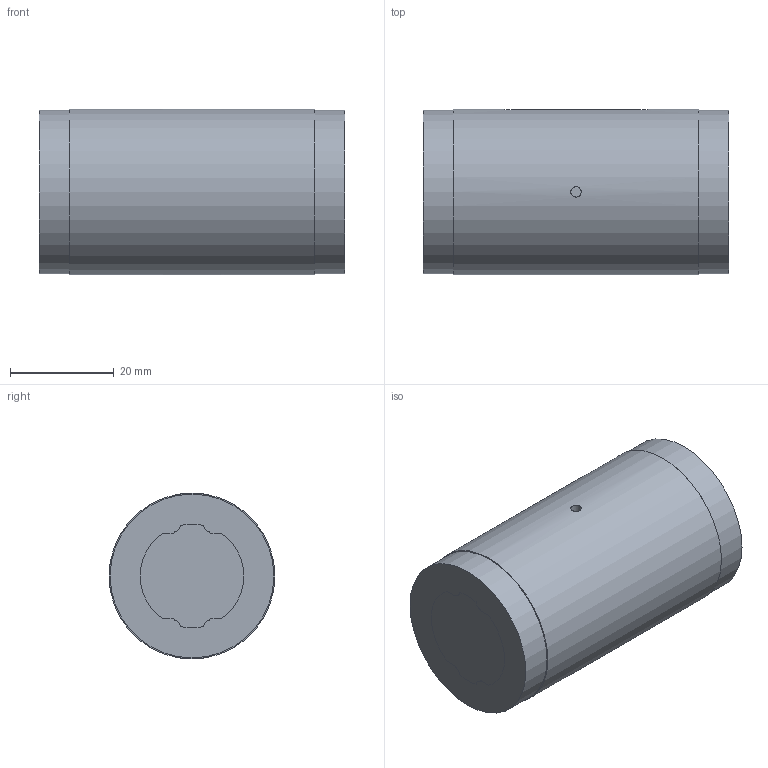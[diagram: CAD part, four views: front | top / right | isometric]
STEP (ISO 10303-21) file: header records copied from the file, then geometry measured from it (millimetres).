
FILE_DESCRIPTION(/* description */ ('STEP AP203'),/* implementation_level */ '2;1');
FILE_NAME(/* name */ 'LT20X+59L(00)',/* time_stamp */ '2024-05-28T07:08:05+02:00',/* author */ ('License CC BY-ND 4.0'),/* organization */ ('CADENAS'),/* preprocessor_version */ 'ST-DEVELOPER v19.3',/* originating_system */ 'PARTsolutions',/* authorisation */ ' ');
FILE_SCHEMA (('CONFIG_CONTROL_DESIGN'));
Length unit declared in the file: millimetre
Products named in the file (3): LT20X+59L(00); 1LT20X 59Shaft; 1LT20X Cylindar
Assembly tree (2 placements, depth 2):
  LT20X+59L(00)
    1LT20X 59Shaft
    1LT20X Cylindar
Bounding box: 59 x 32 x 32 mm (x, y, z)
Volume: 46904.4 mm3; surface area: 15356.4 mm2
Topology: 2 solids, 2 shells, 64 faces, 173 edges, 115 vertices
Faces by surface type: cylinder 39, plane 25
Full cylindrical faces by diameter (mm): 2 x2, 31.6 x2, 32 x1
Entity records: 2129 total; most frequent: CARTESIAN_POINT 399, DIRECTION 366, ORIENTED_EDGE 332, EDGE_CURVE 166, AXIS2_PLACEMENT_3D 139, VERTEX_POINT 114, LINE 88, VECTOR 88
